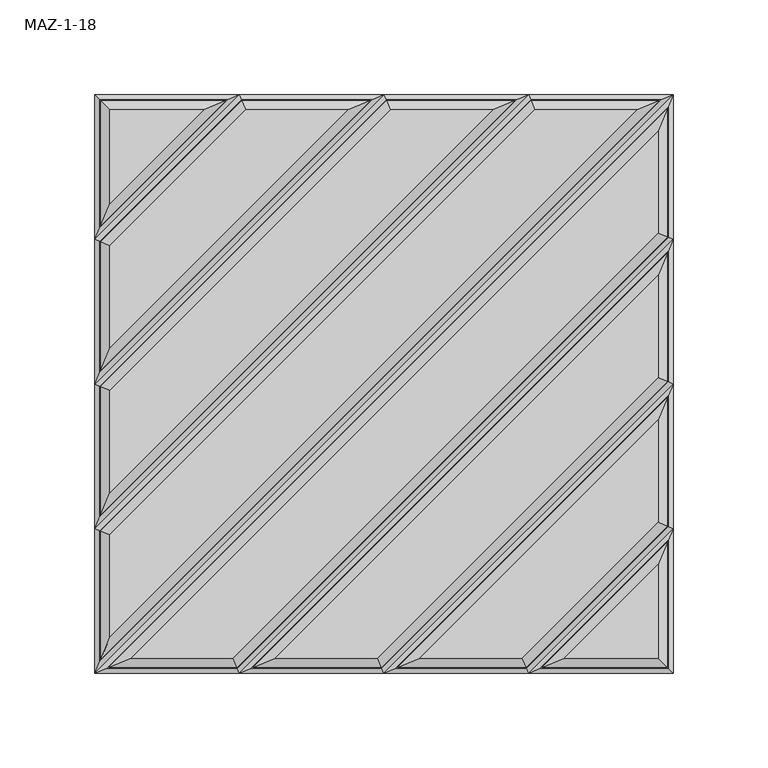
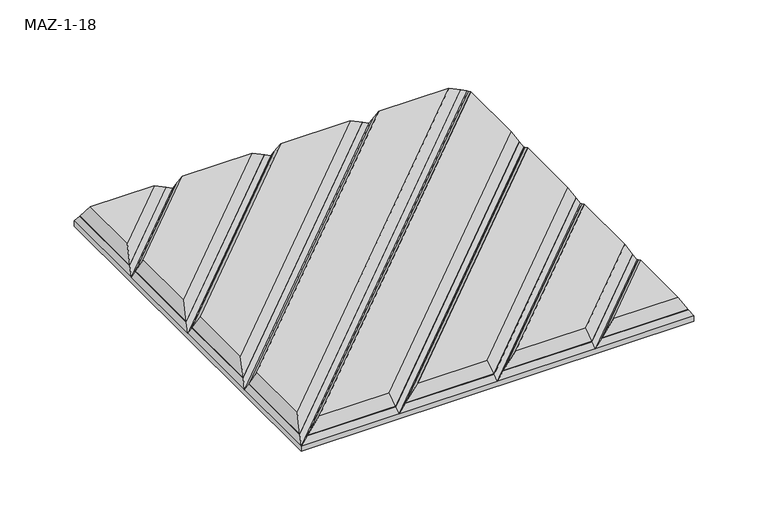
"""IFC4 building model written with IfcOpenShell, lengths in millimetres: proxy geometry, Turf_Wall Tile_Maze : MAZ-1-18."""

from ifc_helpers import new_model, si_unit, origin, place, context, project, spatial, faceted_brep, source, transform, mapped, element, save


def maz_1_18_b906de22(model_context):
    return source(origin(), model_context, "Body", "Brep", [
        faceted_brep([(-152.4, -152.4, 6.35), (-152.4, 152.4, 6.35), (152.4, 152.4, 6.35), (152.4, -152.4, 6.35), (152.4, 152.4, 10.85), (152.4, 76.2, 10.85), (152.4, 0.0, 10.85), (152.4, -76.2, 10.85), (152.4, -152.4, 10.85), (-152.4, 152.4, 10.85), (-76.2, 152.4, 10.85), (0.0, 152.4, 10.85), (76.2, 152.4, 10.85), (-152.4, -152.4, 10.85), (-146.1276892, -149.8019238, 15.35), (149.8019238, 146.1276892, 15.35), (-149.8019238, -146.1276892, 15.35), (146.1276892, 149.8019238, 15.35), (-149.8019238, 6.2723108, 15.35), (-152.4, 0.0, 10.85), (-6.2723108, 149.8019238, 15.35), (-149.8019238, -1.0761584, 15.35), (1.0761584, 149.8019238, 15.35), (-152.4, 76.2, 10.85), (-149.8019238, 75.1238416, 15.35), (-75.1238416, 149.8019238, 15.35), (-149.8019238, 82.4723108, 15.35), (-82.4723108, 149.8019238, 15.35), (-149.8019238, 149.8019238, 15.35), (-152.4, -76.2, 10.85), (-149.8019238, -77.2761584, 15.35), (77.2761584, 149.8019238, 15.35), (-149.8019238, -69.9276892, 15.35), (69.9276892, 149.8019238, 15.35), (-149.8019238, -139.4297872, 15.35), (82.4723108, -149.8019238, 15.35), (149.8019238, -149.8019238, 15.35), (149.8019238, -82.4723108, 15.35), (76.2, -152.4, 10.85), (75.1238416, -149.8019238, 15.35), (149.8019238, -75.1238416, 15.35), (6.2723108, -149.8019238, 15.35), (149.8019238, -6.2723108, 15.35), (0.0, -152.4, 10.85), (-1.0761584, -149.8019238, 15.35), (149.8019238, 1.0761584, 15.35), (-69.9276892, -149.8019238, 15.35), (149.8019238, 69.9276892, 15.35), (-77.2761584, -149.8019238, 15.35), (149.8019238, 77.2761584, 15.35), (-76.2, -152.4, 10.85), (-152.4, -139.4297872, 10.85)], [[[0, 1, 2, 3]], [[4, 5, 6, 7, 8, 3, 2]], [[9, 10, 11, 12, 4, 2, 1]], [[13, 14, 15, 4]], [[16, 13, 4, 17]], [[18, 19, 11, 20]], [[19, 21, 22, 11]], [[23, 24, 25, 10]], [[26, 23, 10, 27]], [[24, 18, 20, 25]], [[27, 28, 26]], [[29, 30, 31, 12]], [[32, 29, 12, 33]], [[16, 17, 31, 30, 34]], [[33, 22, 21, 32]], [[35, 36, 37]], [[38, 35, 37, 7]], [[39, 38, 7, 40]], [[41, 39, 40, 42]], [[43, 41, 42, 6]], [[44, 43, 6, 45]], [[46, 44, 45, 47]], [[14, 48, 49, 15]], [[50, 46, 47, 5]], [[48, 50, 5, 49]], [[23, 19, 18, 24]], [[13, 51, 29, 19, 23, 9, 1, 0]], [[26, 28, 9, 23]], [[16, 34, 30, 29, 51, 13]], [[32, 21, 19, 29]], [[28, 27, 10, 9]], [[25, 20, 11, 10]], [[4, 12, 31, 17]], [[22, 33, 12, 11]], [[42, 40, 7, 6]], [[5, 4, 15, 49]], [[8, 7, 37, 36]], [[47, 45, 6, 5]], [[46, 50, 43, 44]], [[8, 38, 43, 50, 13, 0, 3]], [[39, 41, 43, 38]], [[35, 38, 8, 36]], [[13, 50, 48, 14]]]),
        faceted_brep([(-95.0169325, 144.6057714, 24.35), (-144.6057714, 144.6057714, 24.35), (-144.6057714, 95.0169325, 24.35), (-149.8019238, 82.4723108, 15.35), (-149.8019238, 149.8019238, 15.35), (-82.4723108, 149.8019238, 15.35)], [[[0, 1, 2]], [[3, 4, 5]], [[2, 3, 5, 0]], [[4, 3, 2, 1]], [[1, 0, 5, 4]]]),
        faceted_brep([(-18.8169325, 144.6057714, 24.35), (-144.6057714, 18.8169325, 24.35), (-149.8019238, 6.2723108, 15.35), (-6.2723108, 149.8019238, 15.35), (-144.6057714, 72.9715248, 24.35), (-72.9715248, 144.6057714, 24.35), (-75.1238416, 149.8019238, 15.35), (-149.8019238, 75.1238416, 15.35)], [[[0, 1, 2, 3]], [[4, 1, 0, 5]], [[6, 3, 2, 7]], [[4, 5, 6, 7]], [[1, 4, 7, 2]], [[3, 6, 5, 0]]]),
        faceted_brep([(-149.8019238, -1.0761584, 15.35), (-144.6057714, -3.2284752, 24.35), (3.2284752, 144.6057714, 24.35), (1.0761584, 149.8019238, 15.35), (57.3830675, 144.6057714, 24.35), (-144.6057714, -57.3830675, 24.35), (-149.8019238, -69.9276892, 15.35), (69.9276892, 149.8019238, 15.35)], [[[0, 1, 2, 3]], [[4, 2, 1, 5]], [[6, 0, 3, 7]], [[5, 6, 7, 4]], [[0, 6, 5, 1]], [[2, 4, 7, 3]]]),
        faceted_brep([(-149.8019238, -146.1276892, 15.35), (146.1276892, 149.8019238, 15.35), (133.5830675, 144.6057714, 24.35), (-144.6057714, -133.5830675, 24.35), (-147.027562, -139.4297872, 20.1553356), (-144.6057714, -79.4284752, 24.35), (79.4284752, 144.6057714, 24.35), (-149.8019238, -139.4297872, 15.35), (-149.8019238, -77.2761584, 15.35), (77.2761584, 149.8019238, 15.35)], [[[0, 1, 2, 3, 4]], [[5, 3, 2, 6]], [[0, 7, 8, 9, 1]], [[5, 6, 9, 8]], [[0, 4, 3, 5, 8, 7]], [[1, 9, 6, 2]]]),
        faceted_brep([(72.9715248, -144.6057714, 24.35), (75.1238416, -149.8019238, 15.35), (149.8019238, -75.1238416, 15.35), (144.6057714, -72.9715248, 24.35), (18.8169325, -144.6057714, 24.35), (144.6057714, -18.8169325, 24.35), (6.2723108, -149.8019238, 15.35), (149.8019238, -6.2723108, 15.35)], [[[0, 1, 2, 3]], [[4, 0, 3, 5]], [[1, 6, 7, 2]], [[6, 4, 5, 7]], [[2, 7, 5, 3]], [[0, 4, 6, 1]]]),
        faceted_brep([(-3.2284752, -144.6057714, 24.35), (-1.0761584, -149.8019238, 15.35), (149.8019238, 1.0761584, 15.35), (144.6057714, 3.2284752, 24.35), (-57.3830675, -144.6057714, 24.35), (144.6057714, 57.3830675, 24.35), (-69.9276892, -149.8019238, 15.35), (149.8019238, 69.9276892, 15.35)], [[[0, 1, 2, 3]], [[4, 0, 3, 5]], [[1, 6, 7, 2]], [[6, 4, 5, 7]], [[2, 7, 5, 3]], [[0, 4, 6, 1]]]),
        faceted_brep([(-146.1276892, -149.8019238, 15.35), (-133.5830675, -144.6057714, 24.35), (144.6057714, 133.5830675, 24.35), (149.8019238, 146.1276892, 15.35), (-79.4284752, -144.6057714, 24.35), (-77.2761584, -149.8019238, 15.35), (149.8019238, 77.2761584, 15.35), (144.6057714, 79.4284752, 24.35)], [[[0, 1, 2, 3]], [[4, 5, 6, 7]], [[1, 4, 7, 2]], [[5, 0, 3, 6]], [[2, 7, 6, 3]], [[1, 0, 5, 4]]]),
        faceted_brep([(95.0169325, -144.6057714, 24.35), (144.6057714, -144.6057714, 24.35), (144.6057714, -95.0169325, 24.35), (149.8019238, -149.8019238, 15.35), (82.4723108, -149.8019238, 15.35), (149.8019238, -82.4723108, 15.35)], [[[0, 1, 2]], [[3, 4, 5]], [[4, 0, 2, 5]], [[3, 5, 2, 1]], [[3, 1, 0, 4]]]),
    ])


if __name__ == "__main__":
    model = new_model("IFC4")
    model_context = context("Model", 3, world=origin())
    ifc_project = project(units=[si_unit("LENGTHUNIT", "METRE", prefix="MILLI")], contexts=[model_context])
    site = spatial("IfcSite", under=ifc_project)
    building = spatial("IfcBuilding", under=site)
    placement = place(None, origin())
    maz_1_18_shape = maz_1_18_b906de22(model_context)
    element("IfcBuildingElementProxy", 1, Name="Turf_Wall Tile_Maze : MAZ-1-18", ObjectType="Turf_Wall Tile_Maze : MAZ-1-18", at=placement, inside=building, context=model_context, shape_type="MappedRepresentation", body=[
        mapped(maz_1_18_shape, transform((0.0, 0.0, 0.0), x_axis=(1.0, 0.0, 0.0), y_axis=(0.0, 1.0, 0.0), z_axis=(0.0, 0.0, 1.0))),
    ])
    save(model, "model.ifc")
